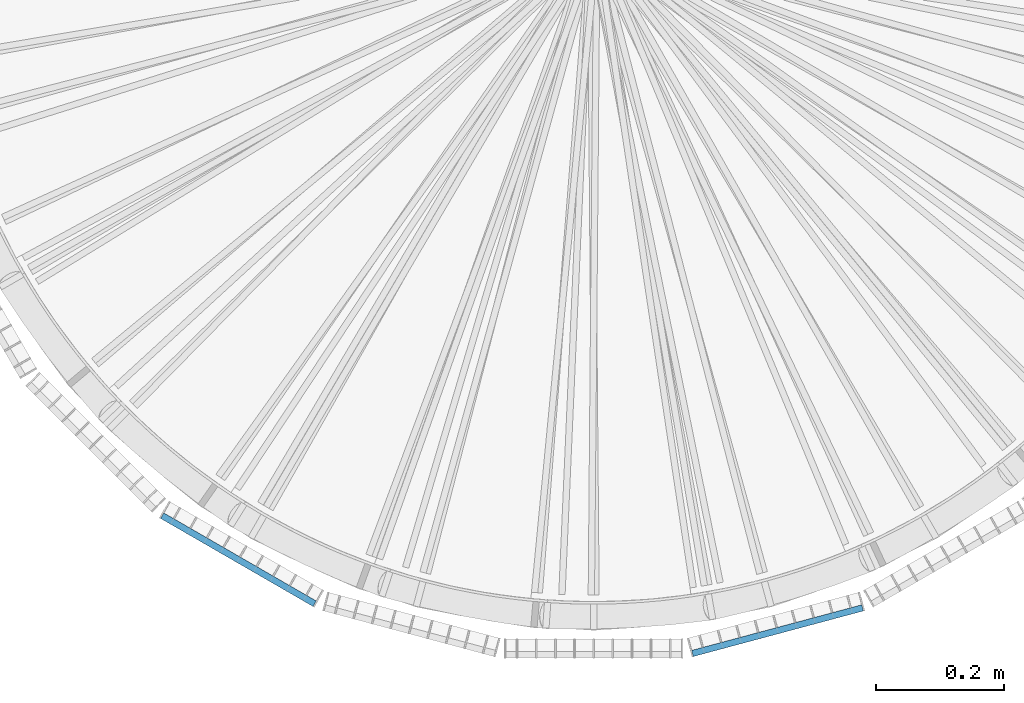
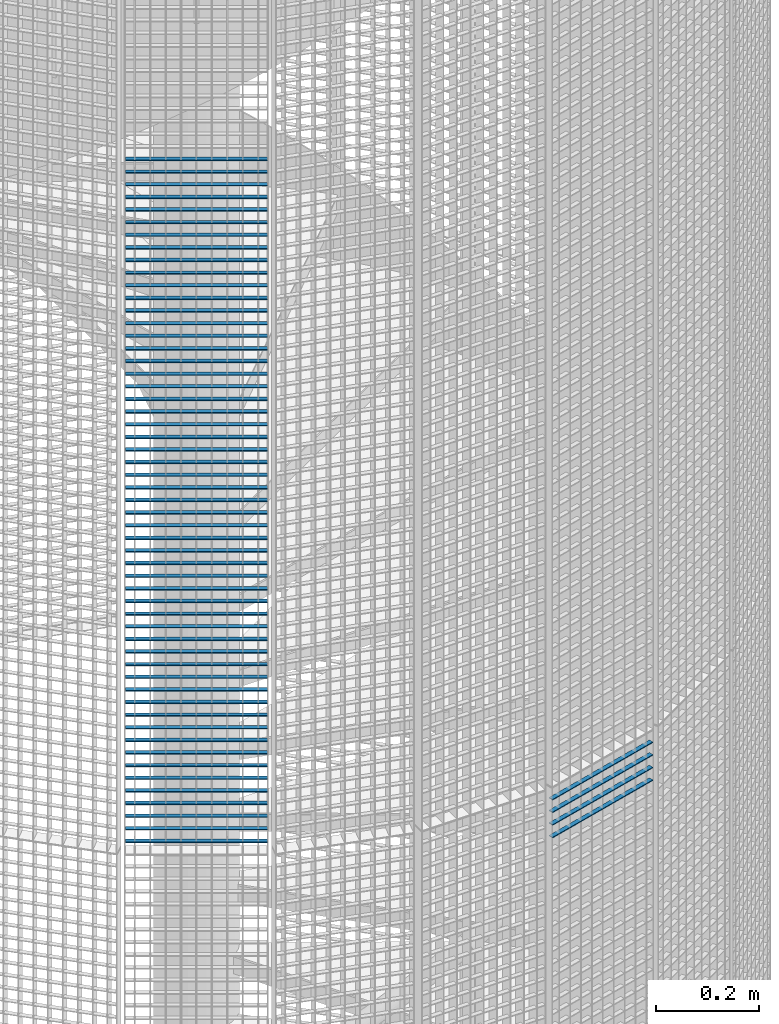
# One storey, part 165 of 1148: 59 beams, 2 elements without a shape of their own.
"""IFC2X3 building model written with IfcOpenShell, lengths in millimetres."""

import ifcopenshell
import ifcopenshell.guid

model = None  # the IFC model being written
_history = None  # IfcOwnerHistory: only IFC2X3 demands one
_inside = {}  # id of a spatial element -> (the spatial element, [elements in it])
_under = {}  # id of a project, library or spatial element -> (it, [spatial elements below it])
_declared = {}  # id of a project -> (the project, [libraries it declares])
_typed = {}  # id of a type object -> (the type object, [elements of that type])
_made_of = {}  # id of a material, layer set ... -> (it, [elements and type objects made of it])


def new_model(schema):
    """Start an empty IFC model of exactly this schema.

    Asked for "IFC4X3", IfcOpenShell would pick the latest addendum, in which some entities
    have other attributes; the version numbers below select the first issue.
    IFC2X3 requires an IfcOwnerHistory on every rooted entity: one is made here for all.
    """
    global model, _history
    if schema == "IFC4X3":
        model = ifcopenshell.file(schema_version=(4, 3, 0, 0))
    else:
        model = ifcopenshell.file(schema=schema)
    _inside.clear()
    _under.clear()
    _declared.clear()
    _typed.clear()
    _made_of.clear()
    _history = None
    if model.schema == "IFC2X3":
        org = make("IfcOrganization", Name="unknown")
        user = make(
            "IfcPersonAndOrganization",
            ThePerson=make("IfcPerson", FamilyName="unknown"),
            TheOrganization=org,
        )
        app = make(
            "IfcApplication",
            ApplicationDeveloper=org,
            Version="unknown",
            ApplicationFullName="unknown",
            ApplicationIdentifier="unknown",
        )
        _history = make(
            "IfcOwnerHistory",
            OwningUser=user,
            OwningApplication=app,
            ChangeAction="ADDED",
            CreationDate=0,
        )
    return model


def make(cls, **values):
    """One entity of the class cls with the attributes given. An attribute that is None is left unset."""
    return model.create_entity(
        cls, **{name: value for name, value in values.items() if value is not None}
    )


def rooted(cls, **values):
    """An entity with a GlobalId (a new one), such as an element, a storey or a relation."""
    return make(cls, GlobalId=ifcopenshell.guid.new(), OwnerHistory=_history, **values)


def si_unit(unit_type, name, prefix=None):
    """IfcSIUnit, for example si_unit("LENGTHUNIT", "METRE", prefix="MILLI")."""
    return make("IfcSIUnit", UnitType=unit_type, Prefix=prefix, Name=name)


def assignment(units):
    """IfcUnitAssignment: the units of a project."""
    return None if units is None else make("IfcUnitAssignment", Units=units)


def point(xyz):
    """IfcCartesianPoint."""
    return None if xyz is None else make("IfcCartesianPoint", Coordinates=xyz)


def direction(xyz):
    """IfcDirection."""
    return None if xyz is None else make("IfcDirection", DirectionRatios=xyz)


def frame(location, z_axis=None, x_axis=None):
    """IfcAxis2Placement3D, a coordinate frame: its origin and axes. An axis left out is left unset."""
    return make(
        "IfcAxis2Placement3D",
        Location=point(location),
        Axis=direction(z_axis),
        RefDirection=direction(x_axis),
    )


def frame_2d(location, x_axis=None):
    """IfcAxis2Placement2D, a coordinate frame in the plane: its origin and x axis."""
    return make(
        "IfcAxis2Placement2D", Location=point(location), RefDirection=direction(x_axis)
    )


def origin_with_axes():
    """The frame at (0, 0, 0) with the z axis (0, 0, 1) and the x axis (1, 0, 0) written out."""
    return frame((0.0, 0.0, 0.0), z_axis=(0.0, 0.0, 1.0), x_axis=(1.0, 0.0, 0.0))


def origin_2d_with_axis():
    """The frame at (0, 0) in the plane with the x axis (1, 0) written out."""
    return frame_2d((0.0, 0.0), x_axis=(1.0, 0.0))


def place(relative_to, where):
    """IfcLocalPlacement: puts the frame where relative to a parent placement (None: the world)."""
    return make(
        "IfcLocalPlacement", PlacementRelTo=relative_to, RelativePlacement=where
    )


def context(
    kind, dimensions, precision=None, world=None, true_north=None, identifier=None
):
    """IfcGeometricRepresentationContext, for example the 3D "Model" context."""
    return make(
        "IfcGeometricRepresentationContext",
        ContextIdentifier=identifier,
        ContextType=kind,
        CoordinateSpaceDimension=dimensions,
        Precision=precision,
        WorldCoordinateSystem=world,
        TrueNorth=true_north,
    )


def subcontext(parent, identifier, kind, view, scale=None):
    """IfcGeometricRepresentationSubContext, for example "Body" below "Model"."""
    return make(
        "IfcGeometricRepresentationSubContext",
        ContextIdentifier=identifier,
        ContextType=kind,
        ParentContext=parent,
        TargetScale=scale,
        TargetView=view,
    )


def project(units=None, contexts=None):
    """IfcProject with its units and contexts."""
    return rooted(
        "IfcProject",
        Name="project",
        RepresentationContexts=contexts,
        UnitsInContext=assignment(units),
    )


def spatial(cls, under=None, at=None, **own):
    """A site, building, storey or space (cls), placed at a placement, below another one or the project."""
    s = rooted(cls, ObjectPlacement=at, **own)
    if under is not None:
        _under.setdefault(under.id(), (under, []))[1].append(s)
    return s


def profile(cls, at=None, kind="AREA", **sizes):
    """A parametric profile (cls). Its sizes go by their IFC names, for example OverallWidth=200.0."""
    return make(cls, ProfileType=kind, Position=at, **sizes)


def rectangle(**sizes):
    """IfcRectangleProfileDef."""
    return profile("IfcRectangleProfileDef", **sizes)


def extrude(swept, where, along, depth):
    """IfcExtrudedAreaSolid: the profile swept, set in the frame where, extruded along a direction by depth."""
    return make(
        "IfcExtrudedAreaSolid",
        SweptArea=swept,
        Position=where,
        ExtrudedDirection=direction(along),
        Depth=depth,
    )


def shape(context_of_items, identifier, shape_type, items):
    """IfcShapeRepresentation: the items that make up one representation, for example the "Body"."""
    return make(
        "IfcShapeRepresentation",
        ContextOfItems=context_of_items,
        RepresentationIdentifier=identifier,
        RepresentationType=shape_type,
        Items=items,
    )


def material(Name=None, Category=None):
    """IfcMaterial."""
    return make("IfcMaterial", Name=Name, Category=Category)


def made_of(thing, what):
    """Note that an element or type object is made of a material, layer set ...; save() writes the relation."""
    if what is not None:
        _made_of.setdefault(what.id(), (what, []))[1].append(thing)
    return thing


def type_object(cls, material=None, **own):
    """A type object (cls), such as IfcWallType, which elements share."""
    return made_of(rooted(cls, **own), material)


def element(
    cls,
    number,
    at=None,
    inside=None,
    cuts=None,
    type_object=None,
    material=None,
    context=None,
    identifier="Body",
    shape_type=None,
    held_by="IfcProductDefinitionShape",
    body=None,
    shapes=None,
    **own,
):
    """One element of the class cls, such as IfcWall. Its Tag is "e" and its number.

    at: its placement. inside: the storey or other place that contains it. cuts: it is an
    opening in that element (IfcRelVoidsElement). A single representation is given by context,
    identifier, shape_type and body (its items); several are given by shapes. held_by: the class
    of the entity that holds the representations. save() writes the other relations.
    """
    e = rooted(cls, Tag="e%d" % number, ObjectPlacement=at, **own)
    if body is not None:
        shapes = [shape(context, identifier, shape_type, body)]
    if shapes is not None:
        e.Representation = make(held_by, Representations=shapes)
    if inside is not None:
        _inside.setdefault(inside.id(), (inside, []))[1].append(e)
    if cuts is not None:
        rooted(
            "IfcRelVoidsElement", RelatingBuildingElement=cuts, RelatedOpeningElement=e
        )
    if type_object is not None:
        _typed.setdefault(type_object.id(), (type_object, []))[1].append(e)
    return made_of(e, material)


def aggregate(whole, parts):
    """IfcRelAggregates: a whole, such as a stair, and the parts it consists of."""
    return rooted("IfcRelAggregates", RelatingObject=whole, RelatedObjects=parts)


def save(model, path):
    """Write the relations noted so far, then the file.

    IfcRelAggregates (storeys below a building ...), IfcRelContainedInSpatialStructure (elements
    in a storey), IfcRelDefinesByType, IfcRelAssociatesMaterial and IfcRelDeclares: one each for
    every whole, place, type object, material and project.
    """
    for whole, parts in _under.values():
        aggregate(whole, parts)
    for where, things in _inside.values():
        rooted(
            "IfcRelContainedInSpatialStructure",
            RelatedElements=things,
            RelatingStructure=where,
        )
    for kind, things in _typed.values():
        rooted("IfcRelDefinesByType", RelatedObjects=things, RelatingType=kind)
    for what, things in _made_of.values():
        rooted("IfcRelAssociatesMaterial", RelatedObjects=things, RelatingMaterial=what)
    for by, libraries in _declared.values():
        rooted("IfcRelDeclares", RelatingContext=by, RelatedDefinitions=libraries)
    model.write(path)


model = new_model("IFC2X3")

# Units and contexts
model_context = context("Model", 3, precision=1e-05, world=origin_with_axes())
body_context = subcontext(model_context, "Body", "Model", "MODEL_VIEW")
ifc_project = project(units=[si_unit("LENGTHUNIT", "METRE", prefix="MILLI"), si_unit("AREAUNIT", "SQUARE_METRE"), si_unit("VOLUMEUNIT", "CUBIC_METRE"), si_unit("MASSUNIT", "GRAM", prefix="KILO"), si_unit("TIMEUNIT", "SECOND"), si_unit("PLANEANGLEUNIT", "RADIAN"), si_unit("SOLIDANGLEUNIT", "STERADIAN"), si_unit("THERMODYNAMICTEMPERATUREUNIT", "DEGREE_CELSIUS"), si_unit("LUMINOUSINTENSITYUNIT", "LUMEN")], contexts=[model_context])

# Site, building, storey
site_placement = place(None, origin_with_axes())
site = spatial("IfcSite", under=ifc_project, at=site_placement, Name="Undefined", CompositionType="ELEMENT")
building_placement = place(site_placement, origin_with_axes())
building = spatial("IfcBuilding", under=site, at=building_placement, Name="Undefined", CompositionType="ELEMENT")
storey_placement = place(building_placement, origin_with_axes())
storey = spatial("IfcBuildingStorey", under=building, at=storey_placement, Name="Undefined", CompositionType="ELEMENT", Elevation=0.0)

# Assembly, beams
assembly_1_placement = place(storey_placement, origin_with_axes())
assembly_1 = element("IfcElementAssembly", 1, at=assembly_1_placement, inside=storey, Name="BORDURE", AssemblyPlace="NOTDEFINED", PredefinedType="NOTDEFINED")
ifc_material = material(Name="STEEL/S235JR")
beam_type = type_object("IfcBeamType", Name="PL2*10", PredefinedType="NOTDEFINED")
beam_1_placement = place(assembly_1_placement, frame((-676.248044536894, -895.303964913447, 4650.0), z_axis=(-0.49999999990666, -0.866025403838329, 0.0), x_axis=(0.866025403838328, -0.49999999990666, 0.0)))
beam_1 = element("IfcBeam", 2, at=beam_1_placement, type_object=beam_type, material=ifc_material, Name="ENTRETOISE", context=body_context, shape_type="SweptSolid", body=[
    extrude(rectangle(XDim=2.0, YDim=10.0, at=origin_2d_with_axis()), frame((275.999999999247, 9.09494701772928e-13, 1.53210777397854e-14), z_axis=(-1.0, 0.0, 0.0), x_axis=(0.0, -1.0, 0.0)), (0.0, 0.0, 1.0), 276.0),
])
beam_2_placement = place(assembly_1_placement, frame((-676.248044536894, -895.303964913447, 4620.0), z_axis=(-0.49999999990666, -0.866025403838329, 0.0), x_axis=(0.866025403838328, -0.49999999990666, 0.0)))
beam_2 = element("IfcBeam", 3, at=beam_2_placement, type_object=beam_type, material=ifc_material, Name="ENTRETOISE", context=body_context, shape_type="SweptSolid", body=[
    extrude(rectangle(XDim=2.0, YDim=10.0, at=origin_2d_with_axis()), frame((275.999999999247, 9.09494701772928e-13, 1.53210777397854e-14), z_axis=(-1.0, 0.0, 0.0), x_axis=(0.0, -1.0, 0.0)), (0.0, 0.0, 1.0), 276.0),
])
beam_3_placement = place(assembly_1_placement, frame((-676.248044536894, -895.303964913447, 4590.0), z_axis=(-0.49999999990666, -0.866025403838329, 0.0), x_axis=(0.866025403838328, -0.49999999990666, 0.0)))
beam_3 = element("IfcBeam", 4, at=beam_3_placement, type_object=beam_type, material=ifc_material, Name="ENTRETOISE", context=body_context, shape_type="SweptSolid", body=[
    extrude(rectangle(XDim=2.0, YDim=10.0, at=origin_2d_with_axis()), frame((275.999999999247, 9.09494701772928e-13, 1.53210777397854e-14), z_axis=(-1.0, 0.0, 0.0), x_axis=(0.0, -1.0, 0.0)), (0.0, 0.0, 1.0), 276.0),
])
beam_4_placement = place(assembly_1_placement, frame((-676.248044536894, -895.303964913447, 4560.0), z_axis=(-0.49999999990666, -0.866025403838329, 0.0), x_axis=(0.866025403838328, -0.49999999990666, 0.0)))
beam_4 = element("IfcBeam", 5, at=beam_4_placement, type_object=beam_type, material=ifc_material, Name="ENTRETOISE", context=body_context, shape_type="SweptSolid", body=[
    extrude(rectangle(XDim=2.0, YDim=10.0, at=origin_2d_with_axis()), frame((275.999999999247, 9.09494701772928e-13, 1.53210777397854e-14), z_axis=(-1.0, 0.0, 0.0), x_axis=(0.0, -1.0, 0.0)), (0.0, 0.0, 1.0), 276.0),
])
beam_5_placement = place(assembly_1_placement, frame((-676.248044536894, -895.303964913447, 4530.0), z_axis=(-0.49999999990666, -0.866025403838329, 0.0), x_axis=(0.866025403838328, -0.49999999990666, 0.0)))
beam_5 = element("IfcBeam", 6, at=beam_5_placement, type_object=beam_type, material=ifc_material, Name="ENTRETOISE", context=body_context, shape_type="SweptSolid", body=[
    extrude(rectangle(XDim=2.0, YDim=10.0, at=origin_2d_with_axis()), frame((275.999999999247, 9.09494701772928e-13, 1.53210777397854e-14), z_axis=(-1.0, 0.0, 0.0), x_axis=(0.0, -1.0, 0.0)), (0.0, 0.0, 1.0), 276.0),
])
beam_6_placement = place(assembly_1_placement, frame((-676.248044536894, -895.303964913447, 4500.0), z_axis=(-0.49999999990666, -0.866025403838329, 0.0), x_axis=(0.866025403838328, -0.49999999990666, 0.0)))
beam_6 = element("IfcBeam", 7, at=beam_6_placement, type_object=beam_type, material=ifc_material, Name="ENTRETOISE", context=body_context, shape_type="SweptSolid", body=[
    extrude(rectangle(XDim=2.0, YDim=10.0, at=origin_2d_with_axis()), frame((275.999999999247, 9.09494701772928e-13, 1.53210777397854e-14), z_axis=(-1.0, 0.0, 0.0), x_axis=(0.0, -1.0, 0.0)), (0.0, 0.0, 1.0), 276.0),
])
beam_7_placement = place(assembly_1_placement, frame((-676.248044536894, -895.303964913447, 4470.0), z_axis=(-0.49999999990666, -0.866025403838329, 0.0), x_axis=(0.866025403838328, -0.49999999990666, 0.0)))
beam_7 = element("IfcBeam", 8, at=beam_7_placement, type_object=beam_type, material=ifc_material, Name="ENTRETOISE", context=body_context, shape_type="SweptSolid", body=[
    extrude(rectangle(XDim=2.0, YDim=10.0, at=origin_2d_with_axis()), frame((275.999999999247, 9.09494701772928e-13, 1.53210777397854e-14), z_axis=(-1.0, 0.0, 0.0), x_axis=(0.0, -1.0, 0.0)), (0.0, 0.0, 1.0), 276.0),
])
beam_8_placement = place(assembly_1_placement, frame((-676.248044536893, -895.303964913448, 4440.0), z_axis=(-0.49999999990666, -0.866025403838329, 0.0), x_axis=(0.866025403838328, -0.49999999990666, 0.0)))
beam_8 = element("IfcBeam", 9, at=beam_8_placement, type_object=beam_type, material=ifc_material, Name="ENTRETOISE", context=body_context, shape_type="SweptSolid", body=[
    extrude(rectangle(XDim=2.0, YDim=10.0, at=origin_2d_with_axis()), frame((275.999999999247, 9.09494701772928e-13, 1.53210777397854e-14), z_axis=(-1.0, 0.0, 0.0), x_axis=(0.0, -1.0, 0.0)), (0.0, 0.0, 1.0), 276.0),
])
beam_9_placement = place(assembly_1_placement, frame((-676.248044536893, -895.303964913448, 4410.0), z_axis=(-0.49999999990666, -0.866025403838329, 0.0), x_axis=(0.866025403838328, -0.49999999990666, 0.0)))
beam_9 = element("IfcBeam", 10, at=beam_9_placement, type_object=beam_type, material=ifc_material, Name="ENTRETOISE", context=body_context, shape_type="SweptSolid", body=[
    extrude(rectangle(XDim=2.0, YDim=10.0, at=origin_2d_with_axis()), frame((275.999999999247, 9.09494701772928e-13, 1.53210777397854e-14), z_axis=(-1.0, 0.0, 0.0), x_axis=(0.0, -1.0, 0.0)), (0.0, 0.0, 1.0), 276.0),
])
beam_10_placement = place(assembly_1_placement, frame((-676.248044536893, -895.303964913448, 4380.0), z_axis=(-0.49999999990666, -0.866025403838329, 0.0), x_axis=(0.866025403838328, -0.49999999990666, 0.0)))
beam_10 = element("IfcBeam", 11, at=beam_10_placement, type_object=beam_type, material=ifc_material, Name="ENTRETOISE", context=body_context, shape_type="SweptSolid", body=[
    extrude(rectangle(XDim=2.0, YDim=10.0, at=origin_2d_with_axis()), frame((275.999999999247, 9.09494701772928e-13, 1.53210777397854e-14), z_axis=(-1.0, 0.0, 0.0), x_axis=(0.0, -1.0, 0.0)), (0.0, 0.0, 1.0), 276.0),
])
beam_11_placement = place(assembly_1_placement, frame((-676.248044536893, -895.303964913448, 4350.0), z_axis=(-0.49999999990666, -0.866025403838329, 0.0), x_axis=(0.866025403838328, -0.49999999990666, 0.0)))
beam_11 = element("IfcBeam", 12, at=beam_11_placement, type_object=beam_type, material=ifc_material, Name="ENTRETOISE", context=body_context, shape_type="SweptSolid", body=[
    extrude(rectangle(XDim=2.0, YDim=10.0, at=origin_2d_with_axis()), frame((275.999999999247, 9.09494701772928e-13, 1.53210777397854e-14), z_axis=(-1.0, 0.0, 0.0), x_axis=(0.0, -1.0, 0.0)), (0.0, 0.0, 1.0), 276.0),
])
beam_12_placement = place(assembly_1_placement, frame((-676.248044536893, -895.303964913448, 4320.0), z_axis=(-0.49999999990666, -0.866025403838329, 0.0), x_axis=(0.866025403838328, -0.49999999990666, 0.0)))
beam_12 = element("IfcBeam", 13, at=beam_12_placement, type_object=beam_type, material=ifc_material, Name="ENTRETOISE", context=body_context, shape_type="SweptSolid", body=[
    extrude(rectangle(XDim=2.0, YDim=10.0, at=origin_2d_with_axis()), frame((275.999999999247, 9.09494701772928e-13, 1.53210777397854e-14), z_axis=(-1.0, 0.0, 0.0), x_axis=(0.0, -1.0, 0.0)), (0.0, 0.0, 1.0), 276.0),
])
beam_13_placement = place(assembly_1_placement, frame((-676.248044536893, -895.303964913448, 4290.0), z_axis=(-0.49999999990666, -0.866025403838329, 0.0), x_axis=(0.866025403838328, -0.49999999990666, 0.0)))
beam_13 = element("IfcBeam", 14, at=beam_13_placement, type_object=beam_type, material=ifc_material, Name="ENTRETOISE", context=body_context, shape_type="SweptSolid", body=[
    extrude(rectangle(XDim=2.0, YDim=10.0, at=origin_2d_with_axis()), frame((275.999999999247, 9.09494701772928e-13, 1.53210777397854e-14), z_axis=(-1.0, 0.0, 0.0), x_axis=(0.0, -1.0, 0.0)), (0.0, 0.0, 1.0), 276.0),
])
beam_14_placement = place(assembly_1_placement, frame((-676.248044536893, -895.303964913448, 4260.0), z_axis=(-0.49999999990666, -0.866025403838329, 0.0), x_axis=(0.866025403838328, -0.49999999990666, 0.0)))
beam_14 = element("IfcBeam", 15, at=beam_14_placement, type_object=beam_type, material=ifc_material, Name="ENTRETOISE", context=body_context, shape_type="SweptSolid", body=[
    extrude(rectangle(XDim=2.0, YDim=10.0, at=origin_2d_with_axis()), frame((275.999999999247, 9.09494701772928e-13, 1.53210777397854e-14), z_axis=(-1.0, 0.0, 0.0), x_axis=(0.0, -1.0, 0.0)), (0.0, 0.0, 1.0), 276.0),
])
beam_15_placement = place(assembly_1_placement, frame((-676.248044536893, -895.303964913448, 4230.0), z_axis=(-0.49999999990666, -0.866025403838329, 0.0), x_axis=(0.866025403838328, -0.49999999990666, 0.0)))
beam_15 = element("IfcBeam", 16, at=beam_15_placement, type_object=beam_type, material=ifc_material, Name="ENTRETOISE", context=body_context, shape_type="SweptSolid", body=[
    extrude(rectangle(XDim=2.0, YDim=10.0, at=origin_2d_with_axis()), frame((275.999999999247, 9.09494701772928e-13, 1.53210777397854e-14), z_axis=(-1.0, 0.0, 0.0), x_axis=(0.0, -1.0, 0.0)), (0.0, 0.0, 1.0), 276.0),
])
beam_16_placement = place(assembly_1_placement, frame((-676.248044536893, -895.303964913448, 4200.0), z_axis=(-0.49999999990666, -0.866025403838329, 0.0), x_axis=(0.866025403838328, -0.49999999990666, 0.0)))
beam_16 = element("IfcBeam", 17, at=beam_16_placement, type_object=beam_type, material=ifc_material, Name="ENTRETOISE", context=body_context, shape_type="SweptSolid", body=[
    extrude(rectangle(XDim=2.0, YDim=10.0, at=origin_2d_with_axis()), frame((275.999999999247, 9.09494701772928e-13, 1.53210777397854e-14), z_axis=(-1.0, 0.0, 0.0), x_axis=(0.0, -1.0, 0.0)), (0.0, 0.0, 1.0), 276.0),
])
beam_17_placement = place(assembly_1_placement, frame((-676.248044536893, -895.303964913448, 4170.0), z_axis=(-0.49999999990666, -0.866025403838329, 0.0), x_axis=(0.866025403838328, -0.49999999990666, 0.0)))
beam_17 = element("IfcBeam", 18, at=beam_17_placement, type_object=beam_type, material=ifc_material, Name="ENTRETOISE", context=body_context, shape_type="SweptSolid", body=[
    extrude(rectangle(XDim=2.0, YDim=10.0, at=origin_2d_with_axis()), frame((275.999999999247, 9.09494701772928e-13, 1.53210777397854e-14), z_axis=(-1.0, 0.0, 0.0), x_axis=(0.0, -1.0, 0.0)), (0.0, 0.0, 1.0), 276.0),
])
beam_18_placement = place(assembly_1_placement, frame((-676.248044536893, -895.303964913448, 4140.0), z_axis=(-0.49999999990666, -0.866025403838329, 0.0), x_axis=(0.866025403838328, -0.49999999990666, 0.0)))
beam_18 = element("IfcBeam", 19, at=beam_18_placement, type_object=beam_type, material=ifc_material, Name="ENTRETOISE", context=body_context, shape_type="SweptSolid", body=[
    extrude(rectangle(XDim=2.0, YDim=10.0, at=origin_2d_with_axis()), frame((275.999999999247, 9.09494701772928e-13, 1.53210777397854e-14), z_axis=(-1.0, 0.0, 0.0), x_axis=(0.0, -1.0, 0.0)), (0.0, 0.0, 1.0), 276.0),
])
beam_19_placement = place(assembly_1_placement, frame((-676.248044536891, -895.303964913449, 3720.0), z_axis=(-0.49999999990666, -0.866025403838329, 0.0), x_axis=(0.866025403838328, -0.49999999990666, 0.0)))
beam_19 = element("IfcBeam", 20, at=beam_19_placement, type_object=beam_type, material=ifc_material, Name="ENTRETOISE", context=body_context, shape_type="SweptSolid", body=[
    extrude(rectangle(XDim=2.0, YDim=10.0, at=origin_2d_with_axis()), frame((275.999999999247, 9.09494701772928e-13, 1.53210777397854e-14), z_axis=(-1.0, 0.0, 0.0), x_axis=(0.0, -1.0, 0.0)), (0.0, 0.0, 1.0), 276.0),
])
beam_20_placement = place(assembly_1_placement, frame((-676.248044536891, -895.303964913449, 3690.0), z_axis=(-0.49999999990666, -0.866025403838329, 0.0), x_axis=(0.866025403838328, -0.49999999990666, 0.0)))
beam_20 = element("IfcBeam", 21, at=beam_20_placement, type_object=beam_type, material=ifc_material, Name="ENTRETOISE", context=body_context, shape_type="SweptSolid", body=[
    extrude(rectangle(XDim=2.0, YDim=10.0, at=origin_2d_with_axis()), frame((275.999999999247, 9.09494701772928e-13, 1.53210777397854e-14), z_axis=(-1.0, 0.0, 0.0), x_axis=(0.0, -1.0, 0.0)), (0.0, 0.0, 1.0), 276.0),
])
beam_21_placement = place(assembly_1_placement, frame((-676.248044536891, -895.303964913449, 3750.0), z_axis=(-0.49999999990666, -0.866025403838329, 0.0), x_axis=(0.866025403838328, -0.49999999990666, 0.0)))
beam_21 = element("IfcBeam", 22, at=beam_21_placement, type_object=beam_type, material=ifc_material, Name="ENTRETOISE", context=body_context, shape_type="SweptSolid", body=[
    extrude(rectangle(XDim=2.0, YDim=10.0, at=origin_2d_with_axis()), frame((275.999999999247, 9.09494701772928e-13, 1.53210777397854e-14), z_axis=(-1.0, 0.0, 0.0), x_axis=(0.0, -1.0, 0.0)), (0.0, 0.0, 1.0), 276.0),
])
beam_22_placement = place(assembly_1_placement, frame((-676.248044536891, -895.303964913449, 3660.0), z_axis=(-0.49999999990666, -0.866025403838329, 0.0), x_axis=(0.866025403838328, -0.49999999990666, 0.0)))
beam_22 = element("IfcBeam", 23, at=beam_22_placement, type_object=beam_type, material=ifc_material, Name="ENTRETOISE", context=body_context, shape_type="SweptSolid", body=[
    extrude(rectangle(XDim=2.0, YDim=10.0, at=origin_2d_with_axis()), frame((275.999999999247, 9.09494701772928e-13, 1.53210777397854e-14), z_axis=(-1.0, 0.0, 0.0), x_axis=(0.0, -1.0, 0.0)), (0.0, 0.0, 1.0), 276.0),
])
beam_23_placement = place(assembly_1_placement, frame((-676.248044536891, -895.303964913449, 3630.0), z_axis=(-0.49999999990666, -0.866025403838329, 0.0), x_axis=(0.866025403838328, -0.49999999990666, 0.0)))
beam_23 = element("IfcBeam", 24, at=beam_23_placement, type_object=beam_type, material=ifc_material, Name="ENTRETOISE", context=body_context, shape_type="SweptSolid", body=[
    extrude(rectangle(XDim=2.0, YDim=10.0, at=origin_2d_with_axis()), frame((275.999999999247, 9.09494701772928e-13, 1.53210777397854e-14), z_axis=(-1.0, 0.0, 0.0), x_axis=(0.0, -1.0, 0.0)), (0.0, 0.0, 1.0), 276.0),
])
beam_24_placement = place(assembly_1_placement, frame((-676.248044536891, -895.303964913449, 3780.0), z_axis=(-0.49999999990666, -0.866025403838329, 0.0), x_axis=(0.866025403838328, -0.49999999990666, 0.0)))
beam_24 = element("IfcBeam", 25, at=beam_24_placement, type_object=beam_type, material=ifc_material, Name="ENTRETOISE", context=body_context, shape_type="SweptSolid", body=[
    extrude(rectangle(XDim=2.0, YDim=10.0, at=origin_2d_with_axis()), frame((275.999999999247, 9.09494701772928e-13, 1.53210777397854e-14), z_axis=(-1.0, 0.0, 0.0), x_axis=(0.0, -1.0, 0.0)), (0.0, 0.0, 1.0), 276.0),
])
beam_25_placement = place(assembly_1_placement, frame((-676.248044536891, -895.30396491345, 3600.0), z_axis=(-0.49999999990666, -0.866025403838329, 0.0), x_axis=(0.866025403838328, -0.49999999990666, 0.0)))
beam_25 = element("IfcBeam", 26, at=beam_25_placement, type_object=beam_type, material=ifc_material, Name="ENTRETOISE", context=body_context, shape_type="SweptSolid", body=[
    extrude(rectangle(XDim=2.0, YDim=10.0, at=origin_2d_with_axis()), frame((275.999999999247, 9.09494701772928e-13, 1.53210777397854e-14), z_axis=(-1.0, 0.0, 0.0), x_axis=(0.0, -1.0, 0.0)), (0.0, 0.0, 1.0), 276.0),
])
beam_26_placement = place(assembly_1_placement, frame((-676.248044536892, -895.303964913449, 3810.0), z_axis=(-0.49999999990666, -0.866025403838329, 0.0), x_axis=(0.866025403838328, -0.49999999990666, 0.0)))
beam_26 = element("IfcBeam", 27, at=beam_26_placement, type_object=beam_type, material=ifc_material, Name="ENTRETOISE", context=body_context, shape_type="SweptSolid", body=[
    extrude(rectangle(XDim=2.0, YDim=10.0, at=origin_2d_with_axis()), frame((275.999999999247, 9.09494701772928e-13, 1.53210777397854e-14), z_axis=(-1.0, 0.0, 0.0), x_axis=(0.0, -1.0, 0.0)), (0.0, 0.0, 1.0), 276.0),
])
beam_27_placement = place(assembly_1_placement, frame((-676.248044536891, -895.30396491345, 3570.0), z_axis=(-0.49999999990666, -0.866025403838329, 0.0), x_axis=(0.866025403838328, -0.49999999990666, 0.0)))
beam_27 = element("IfcBeam", 28, at=beam_27_placement, type_object=beam_type, material=ifc_material, Name="ENTRETOISE", context=body_context, shape_type="SweptSolid", body=[
    extrude(rectangle(XDim=2.0, YDim=10.0, at=origin_2d_with_axis()), frame((275.999999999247, 9.09494701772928e-13, 1.53210777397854e-14), z_axis=(-1.0, 0.0, 0.0), x_axis=(0.0, -1.0, 0.0)), (0.0, 0.0, 1.0), 276.0),
])
beam_28_placement = place(assembly_1_placement, frame((-676.248044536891, -895.30396491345, 3540.0), z_axis=(-0.49999999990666, -0.866025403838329, 0.0), x_axis=(0.866025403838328, -0.49999999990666, 0.0)))
beam_28 = element("IfcBeam", 29, at=beam_28_placement, type_object=beam_type, material=ifc_material, Name="ENTRETOISE", context=body_context, shape_type="SweptSolid", body=[
    extrude(rectangle(XDim=2.0, YDim=10.0, at=origin_2d_with_axis()), frame((275.999999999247, 9.09494701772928e-13, 1.53210777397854e-14), z_axis=(-1.0, 0.0, 0.0), x_axis=(0.0, -1.0, 0.0)), (0.0, 0.0, 1.0), 276.0),
])
beam_29_placement = place(assembly_1_placement, frame((-676.248044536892, -895.303964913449, 3840.0), z_axis=(-0.49999999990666, -0.866025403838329, 0.0), x_axis=(0.866025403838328, -0.49999999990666, 0.0)))
beam_29 = element("IfcBeam", 30, at=beam_29_placement, type_object=beam_type, material=ifc_material, Name="ENTRETOISE", context=body_context, shape_type="SweptSolid", body=[
    extrude(rectangle(XDim=2.0, YDim=10.0, at=origin_2d_with_axis()), frame((275.999999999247, 9.09494701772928e-13, 1.53210777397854e-14), z_axis=(-1.0, 0.0, 0.0), x_axis=(0.0, -1.0, 0.0)), (0.0, 0.0, 1.0), 276.0),
])
beam_30_placement = place(assembly_1_placement, frame((-676.248044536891, -895.303964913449, 3510.0), z_axis=(-0.49999999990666, -0.866025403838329, 0.0), x_axis=(0.866025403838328, -0.49999999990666, 0.0)))
beam_30 = element("IfcBeam", 31, at=beam_30_placement, type_object=beam_type, material=ifc_material, Name="ENTRETOISE", context=body_context, shape_type="SweptSolid", body=[
    extrude(rectangle(XDim=2.0, YDim=10.0, at=origin_2d_with_axis()), frame((275.999999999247, 9.09494701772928e-13, 1.53210777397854e-14), z_axis=(-1.0, 0.0, 0.0), x_axis=(0.0, -1.0, 0.0)), (0.0, 0.0, 1.0), 276.0),
])
beam_31_placement = place(assembly_1_placement, frame((-676.248044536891, -895.303964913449, 3480.0), z_axis=(-0.49999999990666, -0.866025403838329, 0.0), x_axis=(0.866025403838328, -0.49999999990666, 0.0)))
beam_31 = element("IfcBeam", 32, at=beam_31_placement, type_object=beam_type, material=ifc_material, Name="ENTRETOISE", context=body_context, shape_type="SweptSolid", body=[
    extrude(rectangle(XDim=2.0, YDim=10.0, at=origin_2d_with_axis()), frame((275.999999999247, 9.09494701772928e-13, 1.53210777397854e-14), z_axis=(-1.0, 0.0, 0.0), x_axis=(0.0, -1.0, 0.0)), (0.0, 0.0, 1.0), 276.0),
])
beam_32_placement = place(assembly_1_placement, frame((-676.248044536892, -895.303964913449, 3870.0), z_axis=(-0.49999999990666, -0.866025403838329, 0.0), x_axis=(0.866025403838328, -0.49999999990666, 0.0)))
beam_32 = element("IfcBeam", 33, at=beam_32_placement, type_object=beam_type, material=ifc_material, Name="ENTRETOISE", context=body_context, shape_type="SweptSolid", body=[
    extrude(rectangle(XDim=2.0, YDim=10.0, at=origin_2d_with_axis()), frame((275.999999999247, 9.09494701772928e-13, 1.53210777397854e-14), z_axis=(-1.0, 0.0, 0.0), x_axis=(0.0, -1.0, 0.0)), (0.0, 0.0, 1.0), 276.0),
])
beam_33_placement = place(assembly_1_placement, frame((-676.248044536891, -895.30396491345, 3450.0), z_axis=(-0.49999999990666, -0.866025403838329, 0.0), x_axis=(0.866025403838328, -0.49999999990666, 0.0)))
beam_33 = element("IfcBeam", 34, at=beam_33_placement, type_object=beam_type, material=ifc_material, Name="ENTRETOISE", context=body_context, shape_type="SweptSolid", body=[
    extrude(rectangle(XDim=2.0, YDim=10.0, at=origin_2d_with_axis()), frame((275.999999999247, 9.09494701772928e-13, 1.53210777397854e-14), z_axis=(-1.0, 0.0, 0.0), x_axis=(0.0, -1.0, 0.0)), (0.0, 0.0, 1.0), 276.0),
])
beam_34_placement = place(assembly_1_placement, frame((-676.24804453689, -895.30396491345, 3420.0), z_axis=(-0.49999999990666, -0.866025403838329, 0.0), x_axis=(0.866025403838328, -0.49999999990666, 0.0)))
beam_34 = element("IfcBeam", 35, at=beam_34_placement, type_object=beam_type, material=ifc_material, Name="ENTRETOISE", context=body_context, shape_type="SweptSolid", body=[
    extrude(rectangle(XDim=2.0, YDim=10.0, at=origin_2d_with_axis()), frame((275.999999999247, 9.09494701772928e-13, 1.53210777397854e-14), z_axis=(-1.0, 0.0, 0.0), x_axis=(0.0, -1.0, 0.0)), (0.0, 0.0, 1.0), 276.0),
])
beam_35_placement = place(assembly_1_placement, frame((-676.248044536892, -895.303964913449, 3900.0), z_axis=(-0.49999999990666, -0.866025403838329, 0.0), x_axis=(0.866025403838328, -0.49999999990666, 0.0)))
beam_35 = element("IfcBeam", 36, at=beam_35_placement, type_object=beam_type, material=ifc_material, Name="ENTRETOISE", context=body_context, shape_type="SweptSolid", body=[
    extrude(rectangle(XDim=2.0, YDim=10.0, at=origin_2d_with_axis()), frame((275.999999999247, 9.09494701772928e-13, 1.53210777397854e-14), z_axis=(-1.0, 0.0, 0.0), x_axis=(0.0, -1.0, 0.0)), (0.0, 0.0, 1.0), 276.0),
])
beam_36_placement = place(assembly_1_placement, frame((-676.24804453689, -895.30396491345, 3390.0), z_axis=(-0.49999999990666, -0.866025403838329, 0.0), x_axis=(0.866025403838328, -0.49999999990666, 0.0)))
beam_36 = element("IfcBeam", 37, at=beam_36_placement, type_object=beam_type, material=ifc_material, Name="ENTRETOISE", context=body_context, shape_type="SweptSolid", body=[
    extrude(rectangle(XDim=2.0, YDim=10.0, at=origin_2d_with_axis()), frame((275.999999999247, 9.09494701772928e-13, 1.53210777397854e-14), z_axis=(-1.0, 0.0, 0.0), x_axis=(0.0, -1.0, 0.0)), (0.0, 0.0, 1.0), 276.0),
])
beam_37_placement = place(assembly_1_placement, frame((-676.248044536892, -895.303964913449, 3930.0), z_axis=(-0.49999999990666, -0.866025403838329, 0.0), x_axis=(0.866025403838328, -0.49999999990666, 0.0)))
beam_37 = element("IfcBeam", 38, at=beam_37_placement, type_object=beam_type, material=ifc_material, Name="ENTRETOISE", context=body_context, shape_type="SweptSolid", body=[
    extrude(rectangle(XDim=2.0, YDim=10.0, at=origin_2d_with_axis()), frame((275.999999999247, 9.09494701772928e-13, 1.53210777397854e-14), z_axis=(-1.0, 0.0, 0.0), x_axis=(0.0, -1.0, 0.0)), (0.0, 0.0, 1.0), 276.0),
])
beam_38_placement = place(assembly_1_placement, frame((-676.24804453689, -895.30396491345, 3360.0), z_axis=(-0.49999999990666, -0.866025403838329, 0.0), x_axis=(0.866025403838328, -0.49999999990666, 0.0)))
beam_38 = element("IfcBeam", 39, at=beam_38_placement, type_object=beam_type, material=ifc_material, Name="ENTRETOISE", context=body_context, shape_type="SweptSolid", body=[
    extrude(rectangle(XDim=2.0, YDim=10.0, at=origin_2d_with_axis()), frame((275.999999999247, 9.09494701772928e-13, 1.53210777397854e-14), z_axis=(-1.0, 0.0, 0.0), x_axis=(0.0, -1.0, 0.0)), (0.0, 0.0, 1.0), 276.0),
])
beam_39_placement = place(assembly_1_placement, frame((-676.24804453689, -895.30396491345, 3330.0), z_axis=(-0.49999999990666, -0.866025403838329, 0.0), x_axis=(0.866025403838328, -0.49999999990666, 0.0)))
beam_39 = element("IfcBeam", 40, at=beam_39_placement, type_object=beam_type, material=ifc_material, Name="ENTRETOISE", context=body_context, shape_type="SweptSolid", body=[
    extrude(rectangle(XDim=2.0, YDim=10.0, at=origin_2d_with_axis()), frame((275.999999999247, 9.09494701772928e-13, 1.53210777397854e-14), z_axis=(-1.0, 0.0, 0.0), x_axis=(0.0, -1.0, 0.0)), (0.0, 0.0, 1.0), 276.0),
])
beam_40_placement = place(assembly_1_placement, frame((-676.248044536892, -895.303964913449, 3960.0), z_axis=(-0.49999999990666, -0.866025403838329, 0.0), x_axis=(0.866025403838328, -0.49999999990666, 0.0)))
beam_40 = element("IfcBeam", 41, at=beam_40_placement, type_object=beam_type, material=ifc_material, Name="ENTRETOISE", context=body_context, shape_type="SweptSolid", body=[
    extrude(rectangle(XDim=2.0, YDim=10.0, at=origin_2d_with_axis()), frame((275.999999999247, 9.09494701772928e-13, 1.53210777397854e-14), z_axis=(-1.0, 0.0, 0.0), x_axis=(0.0, -1.0, 0.0)), (0.0, 0.0, 1.0), 276.0),
])
beam_41_placement = place(assembly_1_placement, frame((-676.24804453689, -895.30396491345, 3300.0), z_axis=(-0.49999999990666, -0.866025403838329, 0.0), x_axis=(0.866025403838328, -0.49999999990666, 0.0)))
beam_41 = element("IfcBeam", 42, at=beam_41_placement, type_object=beam_type, material=ifc_material, Name="ENTRETOISE", context=body_context, shape_type="SweptSolid", body=[
    extrude(rectangle(XDim=2.0, YDim=10.0, at=origin_2d_with_axis()), frame((275.999999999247, 9.09494701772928e-13, 1.53210777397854e-14), z_axis=(-1.0, 0.0, 0.0), x_axis=(0.0, -1.0, 0.0)), (0.0, 0.0, 1.0), 276.0),
])
beam_42_placement = place(assembly_1_placement, frame((-676.24804453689, -895.30396491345, 3270.0), z_axis=(-0.49999999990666, -0.866025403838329, 0.0), x_axis=(0.866025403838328, -0.49999999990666, 0.0)))
beam_42 = element("IfcBeam", 43, at=beam_42_placement, type_object=beam_type, material=ifc_material, Name="ENTRETOISE", context=body_context, shape_type="SweptSolid", body=[
    extrude(rectangle(XDim=2.0, YDim=10.0, at=origin_2d_with_axis()), frame((275.999999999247, 9.09494701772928e-13, 1.53210777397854e-14), z_axis=(-1.0, 0.0, 0.0), x_axis=(0.0, -1.0, 0.0)), (0.0, 0.0, 1.0), 276.0),
])
beam_43_placement = place(assembly_1_placement, frame((-676.248044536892, -895.303964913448, 3990.0), z_axis=(-0.49999999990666, -0.866025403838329, 0.0), x_axis=(0.866025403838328, -0.49999999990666, 0.0)))
beam_43 = element("IfcBeam", 44, at=beam_43_placement, type_object=beam_type, material=ifc_material, Name="ENTRETOISE", context=body_context, shape_type="SweptSolid", body=[
    extrude(rectangle(XDim=2.0, YDim=10.0, at=origin_2d_with_axis()), frame((275.999999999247, 9.09494701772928e-13, 1.53210777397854e-14), z_axis=(-1.0, 0.0, 0.0), x_axis=(0.0, -1.0, 0.0)), (0.0, 0.0, 1.0), 276.0),
])
beam_44_placement = place(assembly_1_placement, frame((-676.24804453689, -895.30396491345, 3240.0), z_axis=(-0.49999999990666, -0.866025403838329, 0.0), x_axis=(0.866025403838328, -0.49999999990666, 0.0)))
beam_44 = element("IfcBeam", 45, at=beam_44_placement, type_object=beam_type, material=ifc_material, Name="ENTRETOISE", context=body_context, shape_type="SweptSolid", body=[
    extrude(rectangle(XDim=2.0, YDim=10.0, at=origin_2d_with_axis()), frame((275.999999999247, 9.09494701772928e-13, 1.53210777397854e-14), z_axis=(-1.0, 0.0, 0.0), x_axis=(0.0, -1.0, 0.0)), (0.0, 0.0, 1.0), 276.0),
])
beam_45_placement = place(assembly_1_placement, frame((-676.248044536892, -895.303964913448, 4020.0), z_axis=(-0.49999999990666, -0.866025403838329, 0.0), x_axis=(0.866025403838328, -0.49999999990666, 0.0)))
beam_45 = element("IfcBeam", 46, at=beam_45_placement, type_object=beam_type, material=ifc_material, Name="ENTRETOISE", context=body_context, shape_type="SweptSolid", body=[
    extrude(rectangle(XDim=2.0, YDim=10.0, at=origin_2d_with_axis()), frame((275.999999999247, 9.09494701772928e-13, 1.53210777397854e-14), z_axis=(-1.0, 0.0, 0.0), x_axis=(0.0, -1.0, 0.0)), (0.0, 0.0, 1.0), 276.0),
])
beam_46_placement = place(assembly_1_placement, frame((-676.24804453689, -895.30396491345, 3210.0), z_axis=(-0.49999999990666, -0.866025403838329, 0.0), x_axis=(0.866025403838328, -0.49999999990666, 0.0)))
beam_46 = element("IfcBeam", 47, at=beam_46_placement, type_object=beam_type, material=ifc_material, Name="ENTRETOISE", context=body_context, shape_type="SweptSolid", body=[
    extrude(rectangle(XDim=2.0, YDim=10.0, at=origin_2d_with_axis()), frame((275.999999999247, 9.09494701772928e-13, 1.53210777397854e-14), z_axis=(-1.0, 0.0, 0.0), x_axis=(0.0, -1.0, 0.0)), (0.0, 0.0, 1.0), 276.0),
])
beam_47_placement = place(assembly_1_placement, frame((-676.24804453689, -895.30396491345, 3180.0), z_axis=(-0.49999999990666, -0.866025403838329, 0.0), x_axis=(0.866025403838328, -0.49999999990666, 0.0)))
beam_47 = element("IfcBeam", 48, at=beam_47_placement, type_object=beam_type, material=ifc_material, Name="ENTRETOISE", context=body_context, shape_type="SweptSolid", body=[
    extrude(rectangle(XDim=2.0, YDim=10.0, at=origin_2d_with_axis()), frame((275.999999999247, 9.09494701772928e-13, 1.53210777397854e-14), z_axis=(-1.0, 0.0, 0.0), x_axis=(0.0, -1.0, 0.0)), (0.0, 0.0, 1.0), 276.0),
])
beam_48_placement = place(assembly_1_placement, frame((-676.248044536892, -895.303964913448, 4050.0), z_axis=(-0.49999999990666, -0.866025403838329, 0.0), x_axis=(0.866025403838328, -0.49999999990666, 0.0)))
beam_48 = element("IfcBeam", 49, at=beam_48_placement, type_object=beam_type, material=ifc_material, Name="ENTRETOISE", context=body_context, shape_type="SweptSolid", body=[
    extrude(rectangle(XDim=2.0, YDim=10.0, at=origin_2d_with_axis()), frame((275.999999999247, 9.09494701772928e-13, 1.53210777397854e-14), z_axis=(-1.0, 0.0, 0.0), x_axis=(0.0, -1.0, 0.0)), (0.0, 0.0, 1.0), 276.0),
])
beam_49_placement = place(assembly_1_placement, frame((-676.24804453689, -895.30396491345, 3150.0), z_axis=(-0.49999999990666, -0.866025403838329, 0.0), x_axis=(0.866025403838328, -0.49999999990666, 0.0)))
beam_49 = element("IfcBeam", 50, at=beam_49_placement, type_object=beam_type, material=ifc_material, Name="ENTRETOISE", context=body_context, shape_type="SweptSolid", body=[
    extrude(rectangle(XDim=2.0, YDim=10.0, at=origin_2d_with_axis()), frame((275.999999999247, 9.09494701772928e-13, 1.53210777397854e-14), z_axis=(-1.0, 0.0, 0.0), x_axis=(0.0, -1.0, 0.0)), (0.0, 0.0, 1.0), 276.0),
])
beam_50_placement = place(assembly_1_placement, frame((-676.248044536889, -895.30396491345, 3120.0), z_axis=(-0.49999999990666, -0.866025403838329, 0.0), x_axis=(0.866025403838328, -0.49999999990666, 0.0)))
beam_50 = element("IfcBeam", 51, at=beam_50_placement, type_object=beam_type, material=ifc_material, Name="ENTRETOISE", context=body_context, shape_type="SweptSolid", body=[
    extrude(rectangle(XDim=2.0, YDim=10.0, at=origin_2d_with_axis()), frame((275.999999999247, 9.09494701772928e-13, 1.53210777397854e-14), z_axis=(-1.0, 0.0, 0.0), x_axis=(0.0, -1.0, 0.0)), (0.0, 0.0, 1.0), 276.0),
])
beam_51_placement = place(assembly_1_placement, frame((-676.248044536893, -895.303964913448, 4080.0), z_axis=(-0.49999999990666, -0.866025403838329, 0.0), x_axis=(0.866025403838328, -0.49999999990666, 0.0)))
beam_51 = element("IfcBeam", 52, at=beam_51_placement, type_object=beam_type, material=ifc_material, Name="ENTRETOISE", context=body_context, shape_type="SweptSolid", body=[
    extrude(rectangle(XDim=2.0, YDim=10.0, at=origin_2d_with_axis()), frame((275.999999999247, 9.09494701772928e-13, 1.53210777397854e-14), z_axis=(-1.0, 0.0, 0.0), x_axis=(0.0, -1.0, 0.0)), (0.0, 0.0, 1.0), 276.0),
])
beam_52_placement = place(assembly_1_placement, frame((-676.248044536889, -895.30396491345, 3090.0), z_axis=(-0.49999999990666, -0.866025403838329, 0.0), x_axis=(0.866025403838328, -0.49999999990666, 0.0)))
beam_52 = element("IfcBeam", 53, at=beam_52_placement, type_object=beam_type, material=ifc_material, Name="ENTRETOISE", context=body_context, shape_type="SweptSolid", body=[
    extrude(rectangle(XDim=2.0, YDim=10.0, at=origin_2d_with_axis()), frame((275.999999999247, 9.09494701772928e-13, 1.53210777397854e-14), z_axis=(-1.0, 0.0, 0.0), x_axis=(0.0, -1.0, 0.0)), (0.0, 0.0, 1.0), 276.0),
])
beam_53_placement = place(assembly_1_placement, frame((-676.248044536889, -895.30396491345, 3060.0), z_axis=(-0.49999999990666, -0.866025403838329, 0.0), x_axis=(0.866025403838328, -0.49999999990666, 0.0)))
beam_53 = element("IfcBeam", 54, at=beam_53_placement, type_object=beam_type, material=ifc_material, Name="ENTRETOISE", context=body_context, shape_type="SweptSolid", body=[
    extrude(rectangle(XDim=2.0, YDim=10.0, at=origin_2d_with_axis()), frame((275.999999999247, 9.09494701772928e-13, 1.53210777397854e-14), z_axis=(-1.0, 0.0, 0.0), x_axis=(0.0, -1.0, 0.0)), (0.0, 0.0, 1.0), 276.0),
])
beam_54_placement = place(assembly_1_placement, frame((-676.248044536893, -895.303964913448, 4110.0), z_axis=(-0.49999999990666, -0.866025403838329, 0.0), x_axis=(0.866025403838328, -0.49999999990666, 0.0)))
beam_54 = element("IfcBeam", 55, at=beam_54_placement, type_object=beam_type, material=ifc_material, Name="ENTRETOISE", context=body_context, shape_type="SweptSolid", body=[
    extrude(rectangle(XDim=2.0, YDim=10.0, at=origin_2d_with_axis()), frame((275.999999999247, 9.09494701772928e-13, 1.53210777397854e-14), z_axis=(-1.0, 0.0, 0.0), x_axis=(0.0, -1.0, 0.0)), (0.0, 0.0, 1.0), 276.0),
])
beam_55_placement = place(assembly_1_placement, frame((-676.248044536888, -895.30396491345, 3030.0), z_axis=(-0.49999999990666, -0.866025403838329, 0.0), x_axis=(0.866025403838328, -0.49999999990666, 0.0)))
beam_55 = element("IfcBeam", 56, at=beam_55_placement, type_object=beam_type, material=ifc_material, Name="ENTRETOISE", context=body_context, shape_type="SweptSolid", body=[
    extrude(rectangle(XDim=2.0, YDim=10.0, at=origin_2d_with_axis()), frame((275.999999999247, 9.09494701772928e-13, 1.53210777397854e-14), z_axis=(-1.0, 0.0, 0.0), x_axis=(0.0, -1.0, 0.0)), (0.0, 0.0, 1.0), 276.0),
])
aggregate(assembly_1, [beam_1, beam_2, beam_3, beam_4, beam_5, beam_6, beam_7, beam_8, beam_9, beam_10, beam_11, beam_12, beam_13, beam_14, beam_15, beam_16, beam_17, beam_18, beam_19, beam_20, beam_21, beam_22, beam_23, beam_24, beam_25, beam_26, beam_27, beam_28, beam_29, beam_30, beam_31, beam_32, beam_33, beam_34, beam_35, beam_36, beam_37, beam_38, beam_39, beam_40, beam_41, beam_42, beam_43, beam_44, beam_45, beam_46, beam_47, beam_48, beam_49, beam_50, beam_51, beam_52, beam_53, beam_54, beam_55])

assembly_2_placement = place(storey_placement, origin_with_axes())
assembly_2 = element("IfcElementAssembly", 57, at=assembly_2_placement, inside=storey, Name="BORDURE", AssemblyPlace="NOTDEFINED", PredefinedType="NOTDEFINED")
beam_56_placement = place(assembly_2_placement, frame((154.895926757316, -1111.25508286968, 2970.0), z_axis=(0.258819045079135, -0.965925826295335, 0.0), x_axis=(0.965925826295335, 0.258819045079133, 0.0)))
beam_56 = element("IfcBeam", 58, at=beam_56_placement, type_object=beam_type, material=ifc_material, Name="ENTRETOISE", context=body_context, shape_type="SweptSolid", body=[
    extrude(rectangle(XDim=2.0, YDim=10.0, at=origin_2d_with_axis()), frame((275.999999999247, 9.09494701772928e-13, 1.53210777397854e-14), z_axis=(-1.0, 0.0, 0.0), x_axis=(0.0, -1.0, 0.0)), (0.0, 0.0, 1.0), 276.0),
])
beam_57_placement = place(assembly_2_placement, frame((154.895926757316, -1111.25508286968, 2940.0), z_axis=(0.258819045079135, -0.965925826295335, 0.0), x_axis=(0.965925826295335, 0.258819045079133, 0.0)))
beam_57 = element("IfcBeam", 59, at=beam_57_placement, type_object=beam_type, material=ifc_material, Name="ENTRETOISE", context=body_context, shape_type="SweptSolid", body=[
    extrude(rectangle(XDim=2.0, YDim=10.0, at=origin_2d_with_axis()), frame((275.999999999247, 9.09494701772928e-13, 1.53210777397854e-14), z_axis=(-1.0, 0.0, 0.0), x_axis=(0.0, -1.0, 0.0)), (0.0, 0.0, 1.0), 276.0),
])
beam_58_placement = place(assembly_2_placement, frame((154.895926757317, -1111.25508286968, 2910.0), z_axis=(0.258819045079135, -0.965925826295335, 0.0), x_axis=(0.965925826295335, 0.258819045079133, 0.0)))
beam_58 = element("IfcBeam", 60, at=beam_58_placement, type_object=beam_type, material=ifc_material, Name="ENTRETOISE", context=body_context, shape_type="SweptSolid", body=[
    extrude(rectangle(XDim=2.0, YDim=10.0, at=origin_2d_with_axis()), frame((275.999999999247, 9.09494701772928e-13, 1.53210777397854e-14), z_axis=(-1.0, 0.0, 0.0), x_axis=(0.0, -1.0, 0.0)), (0.0, 0.0, 1.0), 276.0),
])
beam_59_placement = place(assembly_2_placement, frame((154.895926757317, -1111.25508286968, 2880.0), z_axis=(0.258819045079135, -0.965925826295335, 0.0), x_axis=(0.965925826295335, 0.258819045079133, 0.0)))
beam_59 = element("IfcBeam", 61, at=beam_59_placement, type_object=beam_type, material=ifc_material, Name="ENTRETOISE", context=body_context, shape_type="SweptSolid", body=[
    extrude(rectangle(XDim=2.0, YDim=10.0, at=origin_2d_with_axis()), frame((275.999999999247, 9.09494701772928e-13, 1.53210777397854e-14), z_axis=(-1.0, 0.0, 0.0), x_axis=(0.0, -1.0, 0.0)), (0.0, 0.0, 1.0), 276.0),
])
aggregate(assembly_2, [beam_56, beam_57, beam_58, beam_59])

save(model, "model.ifc")
